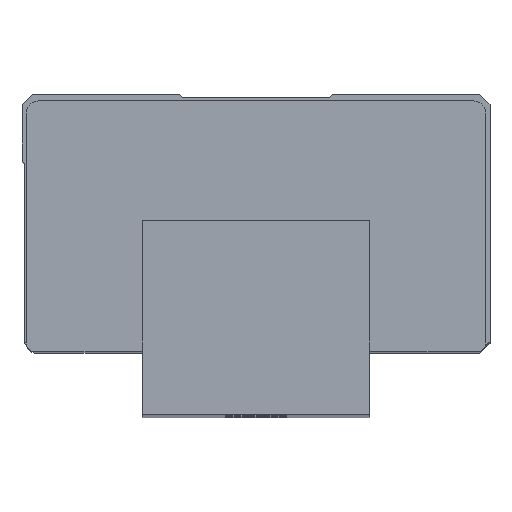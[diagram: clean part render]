
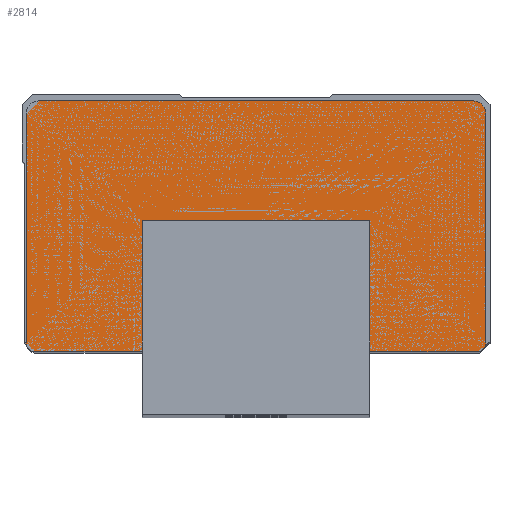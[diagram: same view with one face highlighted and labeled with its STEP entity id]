
A CAD part, top view. The second image highlights one B-rep face of the part: STEP entity #2814.
In plain terms, the highlighted planar face has unit normal (0, 0, 1).
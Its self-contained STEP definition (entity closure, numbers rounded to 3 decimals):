
#2420=CARTESIAN_POINT('',(-15.4,47.,215.3));
#2421=VERTEX_POINT('',#2420);
#2422=CARTESIAN_POINT('',(49.4,47.,215.3));
#2423=VERTEX_POINT('',#2422);
#2424=CARTESIAN_POINT('',(-15.4,47.,215.3));
#2425=DIRECTION('',(1.0,0.0,0.0));
#2426=VECTOR('',#2425,1.0);
#2427=LINE('',#2424,#2426);
#2428=EDGE_CURVE('',#2421,#2423,#2427,.T.);
#2460=CARTESIAN_POINT('',(51.4,45.,215.3));
#2461=VERTEX_POINT('',#2460);
#2462=CARTESIAN_POINT('',(49.4,45.,215.3));
#2463=DIRECTION('',(0.,0.,-1.0));
#2464=DIRECTION('',(0.,1.0,0.));
#2465=AXIS2_PLACEMENT_3D('',#2462,#2463,#2464);
#2466=CIRCLE('',#2465,2.);
#2467=EDGE_CURVE('',#2423,#2461,#2466,.T.);
#2493=CARTESIAN_POINT('',(51.4,10.8,215.3));
#2494=VERTEX_POINT('',#2493);
#2495=CARTESIAN_POINT('',(51.4,45.,215.3));
#2496=DIRECTION('',(0.0,-1.0,0.0));
#2497=VECTOR('',#2496,1.0);
#2498=LINE('',#2495,#2497);
#2499=EDGE_CURVE('',#2461,#2494,#2498,.T.);
#2524=CARTESIAN_POINT('',(50.1,9.5,215.3));
#2525=VERTEX_POINT('',#2524);
#2526=CARTESIAN_POINT('',(50.1,10.8,215.3));
#2527=DIRECTION('',(0.,0.,-1.0));
#2528=DIRECTION('',(1.0,0.,0.));
#2529=AXIS2_PLACEMENT_3D('',#2526,#2527,#2528);
#2530=CIRCLE('',#2529,1.3);
#2531=EDGE_CURVE('',#2494,#2525,#2530,.T.);
#2557=CARTESIAN_POINT('',(34.,9.5,215.3));
#2558=VERTEX_POINT('',#2557);
#2559=CARTESIAN_POINT('',(50.1,9.5,215.3));
#2560=DIRECTION('',(-1.0,0.0,0.0));
#2561=VECTOR('',#2560,1.0);
#2562=LINE('',#2559,#2561);
#2563=EDGE_CURVE('',#2525,#2558,#2562,.T.);
#2588=CARTESIAN_POINT('',(34.,28.9,215.3));
#2589=VERTEX_POINT('',#2588);
#2590=CARTESIAN_POINT('',(34.,9.5,215.3));
#2591=DIRECTION('',(0.0,1.0,0.0));
#2592=VECTOR('',#2591,1.0);
#2593=LINE('',#2590,#2592);
#2594=EDGE_CURVE('',#2558,#2589,#2593,.T.);
#2619=CARTESIAN_POINT('',(0.,28.9,215.3));
#2620=VERTEX_POINT('',#2619);
#2621=CARTESIAN_POINT('',(34.,28.9,215.3));
#2622=DIRECTION('',(-1.0,0.0,0.0));
#2623=VECTOR('',#2622,1.0);
#2624=LINE('',#2621,#2623);
#2625=EDGE_CURVE('',#2589,#2620,#2624,.T.);
#2650=CARTESIAN_POINT('',(0.,9.5,215.3));
#2651=VERTEX_POINT('',#2650);
#2652=CARTESIAN_POINT('',(0.,28.9,215.3));
#2653=DIRECTION('',(0.0,-1.0,0.0));
#2654=VECTOR('',#2653,1.0);
#2655=LINE('',#2652,#2654);
#2656=EDGE_CURVE('',#2620,#2651,#2655,.T.);
#2681=CARTESIAN_POINT('',(-16.1,9.5,215.3));
#2682=VERTEX_POINT('',#2681);
#2683=CARTESIAN_POINT('',(0.,9.5,215.3));
#2684=DIRECTION('',(-1.0,0.0,0.0));
#2685=VECTOR('',#2684,1.0);
#2686=LINE('',#2683,#2685);
#2687=EDGE_CURVE('',#2651,#2682,#2686,.T.);
#2712=CARTESIAN_POINT('',(-17.4,10.8,215.3));
#2713=VERTEX_POINT('',#2712);
#2714=CARTESIAN_POINT('',(-16.1,10.8,215.3));
#2715=DIRECTION('',(0.,0.,-1.0));
#2716=DIRECTION('',(0.,-1.0,0.));
#2717=AXIS2_PLACEMENT_3D('',#2714,#2715,#2716);
#2718=CIRCLE('',#2717,1.3);
#2719=EDGE_CURVE('',#2682,#2713,#2718,.T.);
#2745=CARTESIAN_POINT('',(-17.4,45.,215.3));
#2746=VERTEX_POINT('',#2745);
#2747=CARTESIAN_POINT('',(-17.4,10.8,215.3));
#2748=DIRECTION('',(0.0,1.0,0.0));
#2749=VECTOR('',#2748,1.0);
#2750=LINE('',#2747,#2749);
#2751=EDGE_CURVE('',#2713,#2746,#2750,.T.);
#2776=CARTESIAN_POINT('',(-15.4,45.,215.3));
#2777=DIRECTION('',(0.,0.,-1.0));
#2778=DIRECTION('',(-1.0,0.,0.));
#2779=AXIS2_PLACEMENT_3D('',#2776,#2777,#2778);
#2780=CIRCLE('',#2779,2.0);
#2781=EDGE_CURVE('',#2746,#2421,#2780,.T.);
#2795=CARTESIAN_POINT('',(-20.84,7.625,215.3));
#2796=DIRECTION('',(0.0,0.0,1.0));
#2797=DIRECTION('',(1.0,0.0,0.0));
#2798=AXIS2_PLACEMENT_3D('',#2795,#2796,#2797);
#2799=PLANE('',#2798);
#2800=ORIENTED_EDGE('',*,*,#2428,.F.);
#2801=ORIENTED_EDGE('',*,*,#2781,.F.);
#2802=ORIENTED_EDGE('',*,*,#2751,.F.);
#2803=ORIENTED_EDGE('',*,*,#2719,.F.);
#2804=ORIENTED_EDGE('',*,*,#2687,.F.);
#2805=ORIENTED_EDGE('',*,*,#2656,.F.);
#2806=ORIENTED_EDGE('',*,*,#2625,.F.);
#2807=ORIENTED_EDGE('',*,*,#2594,.F.);
#2808=ORIENTED_EDGE('',*,*,#2563,.F.);
#2809=ORIENTED_EDGE('',*,*,#2531,.F.);
#2810=ORIENTED_EDGE('',*,*,#2499,.F.);
#2811=ORIENTED_EDGE('',*,*,#2467,.F.);
#2812=EDGE_LOOP('',(#2800,#2801,#2802,#2803,#2804,#2805,#2806,#2807,#2808,#2809,#2810,#2811));
#2813=FACE_OUTER_BOUND('',#2812,.T.);
#2814=ADVANCED_FACE('',(#2813),#2799,.T.);
